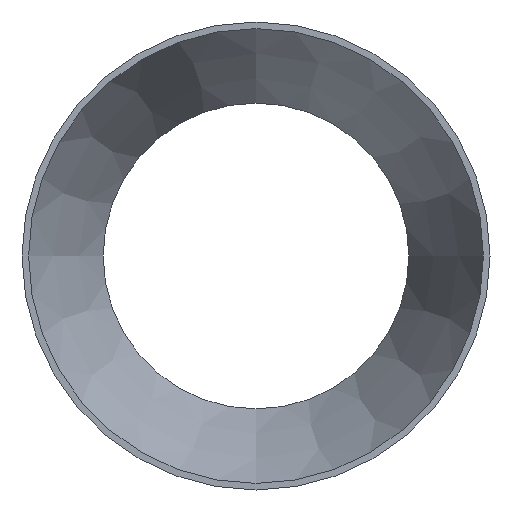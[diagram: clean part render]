
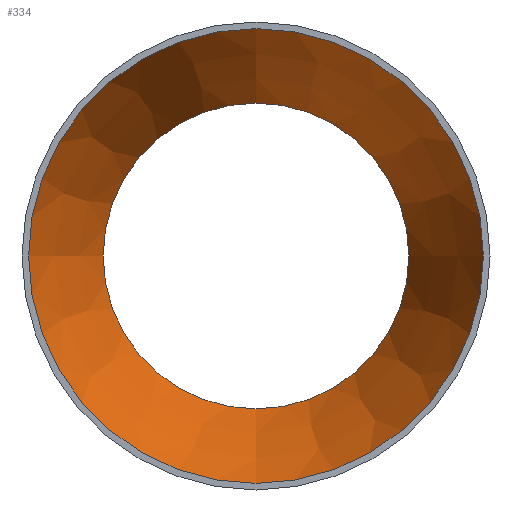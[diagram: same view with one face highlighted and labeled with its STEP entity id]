
A CAD part, left-side view. The second image highlights one B-rep face of the part: STEP entity #334.
In plain terms, the highlighted conical face has half-angle 22.754 degrees and reference radius 131.572 mm.
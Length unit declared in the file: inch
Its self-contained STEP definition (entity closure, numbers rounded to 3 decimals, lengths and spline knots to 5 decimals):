
#66=FACE_OUTER_BOUND('',#82,.T.);
#82=EDGE_LOOP('',(#235,#236,#237,#238,#239,#240));
#104=LINE('',#580,#114);
#114=VECTOR('',#447,5.18);
#127=CIRCLE('',#375,4.165);
#128=CIRCLE('',#376,6.195);
#129=CIRCLE('',#377,6.195);
#130=CIRCLE('',#378,4.165);
#159=VERTEX_POINT('',#576);
#160=VERTEX_POINT('',#577);
#161=VERTEX_POINT('',#579);
#162=VERTEX_POINT('',#581);
#192=EDGE_CURVE('',#159,#160,#127,.T.);
#193=EDGE_CURVE('',#160,#161,#104,.T.);
#194=EDGE_CURVE('',#162,#161,#128,.T.);
#195=EDGE_CURVE('',#161,#162,#129,.T.);
#196=EDGE_CURVE('',#160,#159,#130,.T.);
#235=ORIENTED_EDGE('',*,*,#192,.T.);
#236=ORIENTED_EDGE('',*,*,#193,.T.);
#237=ORIENTED_EDGE('',*,*,#194,.F.);
#238=ORIENTED_EDGE('',*,*,#195,.F.);
#239=ORIENTED_EDGE('',*,*,#193,.F.);
#240=ORIENTED_EDGE('',*,*,#196,.T.);
#314=CONICAL_SURFACE('',#374,5.18,0.397);
#334=ADVANCED_FACE('',(#66),#314,.F.);
#374=AXIS2_PLACEMENT_3D('',#575,#443,#444);
#375=AXIS2_PLACEMENT_3D('',#578,#445,#446);
#376=AXIS2_PLACEMENT_3D('',#582,#448,#449);
#377=AXIS2_PLACEMENT_3D('',#583,#450,#451);
#378=AXIS2_PLACEMENT_3D('',#584,#452,#453);
#443=DIRECTION('center_axis',(-1.,0.,0.));
#444=DIRECTION('ref_axis',(0.,1.,0.));
#445=DIRECTION('center_axis',(1.,0.,0.));
#446=DIRECTION('ref_axis',(0.,1.,0.));
#447=DIRECTION('',(-0.922,-0.387,0.));
#448=DIRECTION('center_axis',(1.,0.,0.));
#449=DIRECTION('ref_axis',(0.,1.,0.));
#450=DIRECTION('center_axis',(1.,0.,0.));
#451=DIRECTION('ref_axis',(0.,1.,0.));
#452=DIRECTION('center_axis',(1.,0.,0.));
#453=DIRECTION('ref_axis',(0.,1.,0.));
#575=CARTESIAN_POINT('Origin',(4.,0.,0.));
#576=CARTESIAN_POINT('',(6.42,4.165,0.));
#577=CARTESIAN_POINT('',(6.42,-4.165,0.));
#578=CARTESIAN_POINT('Origin',(6.42,0.,0.));
#579=CARTESIAN_POINT('',(1.58,-6.195,0.));
#580=CARTESIAN_POINT('',(4.,-5.18,0.));
#581=CARTESIAN_POINT('',(1.58,6.195,0.));
#582=CARTESIAN_POINT('Origin',(1.58,0.,0.));
#583=CARTESIAN_POINT('Origin',(1.58,0.,0.));
#584=CARTESIAN_POINT('Origin',(6.42,0.,0.));
